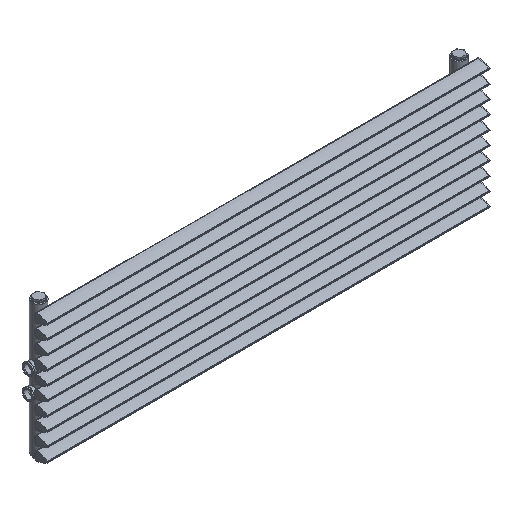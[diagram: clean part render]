
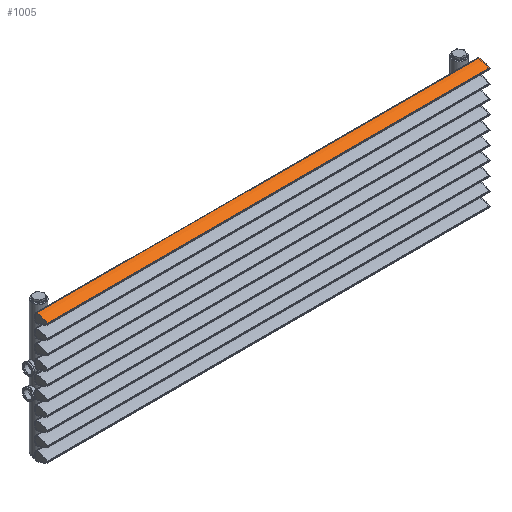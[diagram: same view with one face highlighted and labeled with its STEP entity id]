
A CAD part, isometric view. The second image highlights one B-rep face of the part: STEP entity #1005.
In plain terms, the highlighted cylindrical face has radius 51.638 mm (diameter 103.277 mm), a partial arc.
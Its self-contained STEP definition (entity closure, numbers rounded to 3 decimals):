
#94=LINE('',#2336,#128);
#95=LINE('',#2339,#129);
#128=VECTOR('',#1316,10.);
#129=VECTOR('',#1319,10.);
#303=FACE_OUTER_BOUND('',#397,.T.);
#397=EDGE_LOOP('',(#809,#810,#811,#812));
#460=CIRCLE('',#1130,51.638);
#461=CIRCLE('',#1131,51.638);
#544=VERTEX_POINT('',#2332);
#545=VERTEX_POINT('',#2333);
#546=VERTEX_POINT('',#2335);
#547=VERTEX_POINT('',#2337);
#644=EDGE_CURVE('',#544,#545,#460,.T.);
#645=EDGE_CURVE('',#544,#546,#94,.T.);
#646=EDGE_CURVE('',#547,#546,#461,.T.);
#647=EDGE_CURVE('',#545,#547,#95,.T.);
#809=ORIENTED_EDGE('',*,*,#644,.F.);
#810=ORIENTED_EDGE('',*,*,#645,.T.);
#811=ORIENTED_EDGE('',*,*,#646,.F.);
#812=ORIENTED_EDGE('',*,*,#647,.F.);
#969=CYLINDRICAL_SURFACE('',#1129,51.638);
#1005=ADVANCED_FACE('',(#303),#969,.T.);
#1129=AXIS2_PLACEMENT_3D('',#2331,#1312,#1313);
#1130=AXIS2_PLACEMENT_3D('',#2334,#1314,#1315);
#1131=AXIS2_PLACEMENT_3D('',#2338,#1317,#1318);
#1312=DIRECTION('center_axis',(0.,0.,-1.));
#1313=DIRECTION('ref_axis',(0.837,-0.547,0.));
#1314=DIRECTION('center_axis',(0.,0.,1.));
#1315=DIRECTION('ref_axis',(0.837,-0.547,0.));
#1316=DIRECTION('',(0.,0.,-1.));
#1317=DIRECTION('center_axis',(0.,0.,-1.));
#1318=DIRECTION('ref_axis',(0.837,-0.547,0.));
#1319=DIRECTION('',(0.,0.,-1.));
#2331=CARTESIAN_POINT('Origin',(-41.424,-0.617,0.));
#2332=CARTESIAN_POINT('',(1.804,-28.863,0.));
#2333=CARTESIAN_POINT('',(10.063,-4.573,0.));
#2334=CARTESIAN_POINT('Origin',(-41.424,-0.617,0.));
#2335=CARTESIAN_POINT('',(1.804,-28.863,-1000.));
#2336=CARTESIAN_POINT('',(1.804,-28.863,0.));
#2337=CARTESIAN_POINT('',(10.063,-4.573,-1000.));
#2338=CARTESIAN_POINT('Origin',(-41.424,-0.617,-1000.));
#2339=CARTESIAN_POINT('',(10.063,-4.573,0.));
